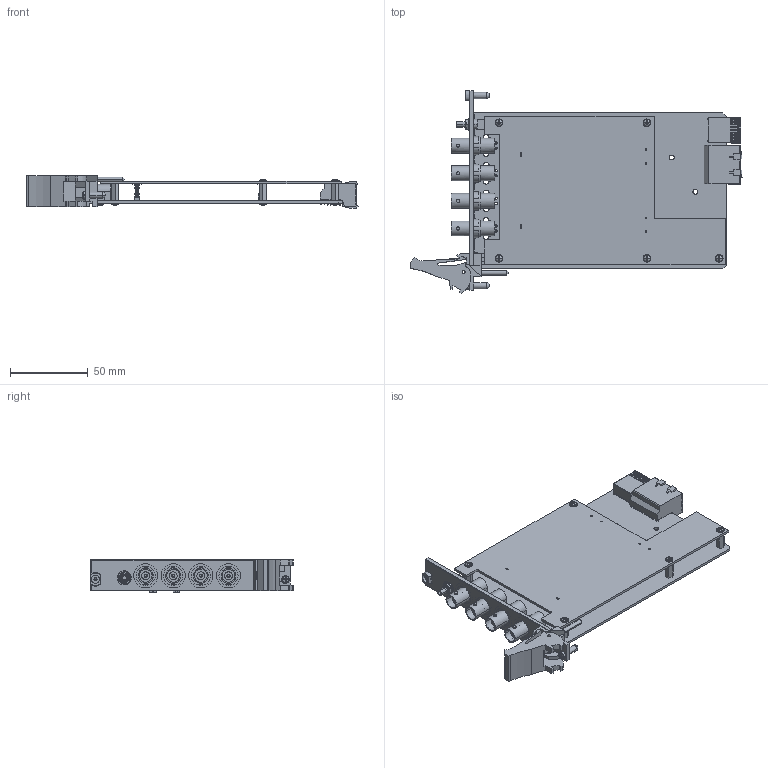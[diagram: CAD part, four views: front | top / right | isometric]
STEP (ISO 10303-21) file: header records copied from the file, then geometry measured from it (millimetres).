
FILE_DESCRIPTION((''),'2;1');
FILE_NAME('CU_PXIE-4464-BNC','2015-03-19T',('dkendric'),(''),'PRO/ENGINEER BY PARAMETRIC TECHNOLOGY CORPORATION, 2014000','PRO/ENGINEER BY PARAMETRIC TECHNOLOGY CORPORATION, 2014000','');
FILE_SCHEMA(('CONFIG_CONTROL_DESIGN'));
Products named in the file (1): CU_PXIE-4464-BNC
Bounding box: 213.82 x 130.5 x 20.78 mm (x, y, z)
Volume: 75297.7 mm3; surface area: 82888.9 mm2
Topology: 1 solids, 8 shells, 5261 faces, 14795 edges, 9620 vertices
Faces by surface type: plane 4568, cylinder 633, sphere 30, cone 28, torus 2
Entity records: 171623 total; most frequent: CARTESIAN_POINT 34971, ORIENTED_EDGE 29578, DIRECTION 25931, EDGE_CURVE 14789, VECTOR 12251, LINE 12251, VERTEX_POINT 9620, AXIS2_PLACEMENT_3D 6840
